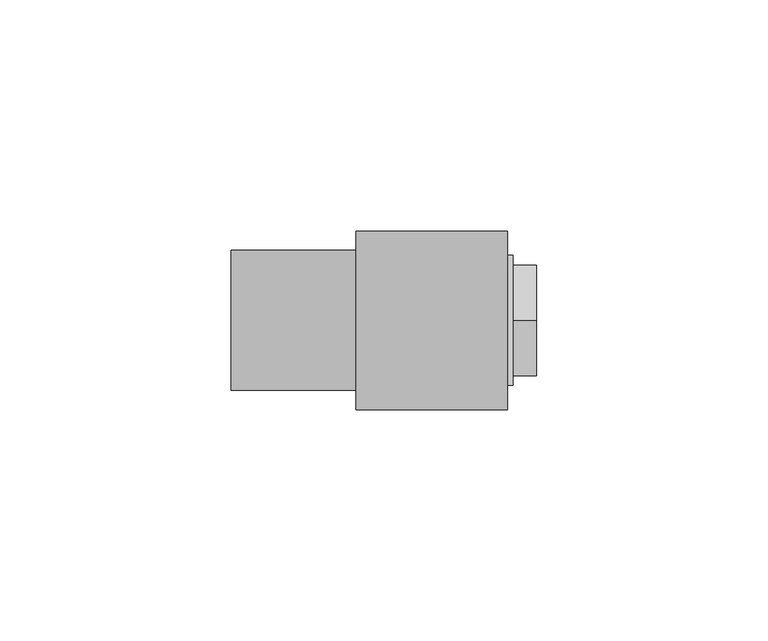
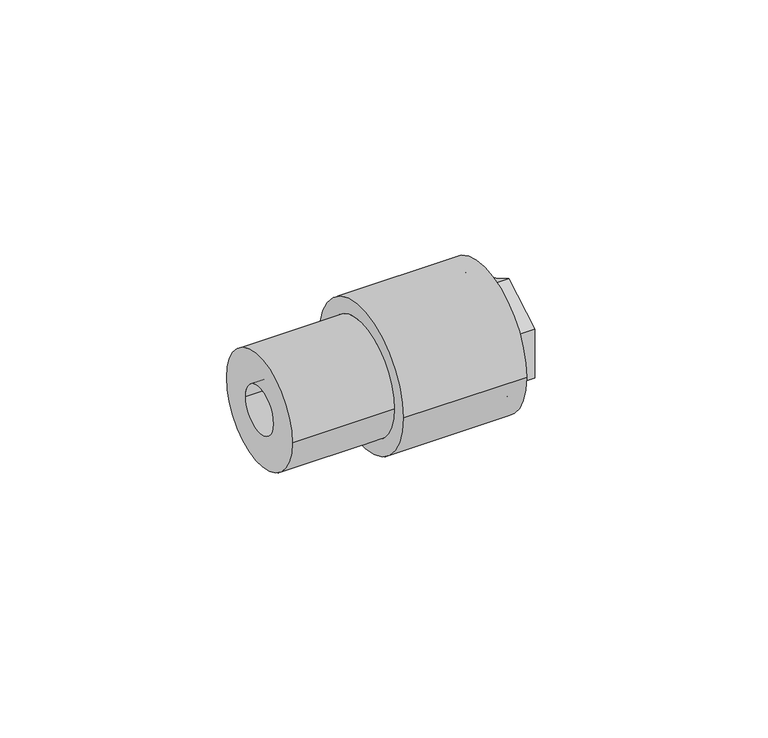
"""IFC4 building model written with IfcOpenShell, lengths in millimetres: pipe fitting geometry, Aquatherm - Fusion Outlet Transition Female : POTABLE BRASS - HEX."""

from ifc_helpers import new_model, si_unit, frame, origin, place, context, project, spatial, polyline, circle_curve, source, transform, mapped, element, save
from ifc_brep_helpers import plane_surface, cylinder_surface, revolved_surface, advanced_brep


def pipe_fitting_e7956df5(model_context):
    return source(origin(), model_context, "Body", "AdvancedBrep", [
        advanced_brep(
        [(26.416, 9.525, 0.0), (26.416, -9.525, 0.0), (36.5363125, -9.525, 0.0), (36.5363125, 9.525, 0.0), (26.416, 10.31875, 0.0), (26.416, -10.31875, 0.0), (23.241, 10.31875, 0.0), (23.241, -10.31875, 0.0), (23.241, 6.35, 0.0), (23.241, -6.35, 0.0), (20.066, 6.35, 0.0), (20.066, -6.35, 0.0), (20.066, 15.113, 0.0), (20.066, -15.113, 0.0), (32.766, 15.113, 0.0), (32.766, -15.113, 0.0), (39.116, 10.31875, 0.0), (39.116, -10.31875, 0.0), (39.116, -11.938, 0.0), (39.116, -11.938, -6.8924075), (39.116, 0.0, -13.784815), (39.116, 11.938, -6.8924075), (39.116, 11.938, 0.0), (39.116, 11.938, 6.8924075), (39.116, 0.0, 13.784815), (39.116, -11.938, 6.8924075), (32.766, 14.097, 0.0), (32.766, -14.097, 0.0), (33.956625, 14.097, 0.0), (33.956625, -14.097, 0.0), (33.956625, 0.0, -13.784815), (33.956625, -11.938, -6.8924075), (33.956625, -11.938, 6.8924075), (33.956625, 0.0, 13.784815), (33.956625, 11.938, 6.8924075), (33.956625, 11.938, -6.8924075)],
        [
            (0, 1, circle_curve(frame((26.416, 0.0, 0.0), z_axis=(-1.0, 0.0, 0.0), x_axis=(0.0, -1.0, 0.0)), 9.525)),
            (1, 2),
            (2, 3, circle_curve(frame((36.5363125, 0.0, 0.0), z_axis=(1.0, 0.0, 0.0), x_axis=(0.0, -1.0, 0.0)), 9.525)),
            (3, 0),
            (1, 0, circle_curve(frame((26.416, 0.0, 0.0), z_axis=(-1.0, 0.0, 0.0), x_axis=(0.0, -1.0, 0.0)), 9.525)),
            (3, 2, circle_curve(frame((36.5363125, 0.0, 0.0), z_axis=(1.0, 0.0, 0.0), x_axis=(0.0, -1.0, 0.0)), 9.525)),
            (0, 4),
            (4, 5, circle_curve(frame((26.416, 0.0, 0.0), z_axis=(-1.0, 0.0, 0.0), x_axis=(0.0, -1.0, 0.0)), 10.31875)),
            (5, 1),
            (5, 4, circle_curve(frame((26.416, 0.0, 0.0), z_axis=(-1.0, 0.0, 0.0), x_axis=(0.0, -1.0, 0.0)), 10.31875)),
            (4, 6),
            (6, 7, circle_curve(frame((23.241, 0.0, 0.0), z_axis=(-1.0, 0.0, 0.0), x_axis=(0.0, -1.0, 0.0)), 10.31875)),
            (7, 5),
            (7, 6, circle_curve(frame((23.241, 0.0, 0.0), z_axis=(-1.0, 0.0, 0.0), x_axis=(0.0, -1.0, 0.0)), 10.31875)),
            (6, 8),
            (8, 9, circle_curve(frame((23.241, 0.0, 0.0), z_axis=(-1.0, 0.0, 0.0), x_axis=(0.0, -1.0, 0.0)), 6.35)),
            (9, 7),
            (9, 8, circle_curve(frame((23.241, 0.0, 0.0), z_axis=(-1.0, 0.0, 0.0), x_axis=(0.0, -1.0, 0.0)), 6.35)),
            (8, 10),
            (10, 11, circle_curve(frame((20.066, 0.0, 0.0), z_axis=(-1.0, 0.0, 0.0), x_axis=(0.0, -1.0, 0.0)), 6.35)),
            (11, 9),
            (11, 10, circle_curve(frame((20.066, 0.0, 0.0), z_axis=(-1.0, 0.0, 0.0), x_axis=(0.0, -1.0, 0.0)), 6.35)),
            (10, 12),
            (12, 13, circle_curve(frame((20.066, 0.0, 0.0), z_axis=(-1.0, 0.0, 0.0), x_axis=(0.0, -1.0, 0.0)), 15.113)),
            (13, 11),
            (13, 12, circle_curve(frame((20.066, 0.0, 0.0), z_axis=(-1.0, 0.0, 0.0), x_axis=(0.0, -1.0, 0.0)), 15.113)),
            (12, 14),
            (14, 15, circle_curve(frame((32.766, 0.0, 0.0), z_axis=(-1.0, 0.0, 0.0), x_axis=(0.0, -1.0, 0.0)), 15.113)),
            (15, 13),
            (15, 14, circle_curve(frame((32.766, 0.0, 0.0), z_axis=(-1.0, 0.0, 0.0), x_axis=(0.0, -1.0, 0.0)), 15.113)),
            (16, 17, circle_curve(frame((39.116, 0.0, 0.0), z_axis=(-1.0, 0.0, 0.0), x_axis=(0.0, -1.0, 0.0)), 10.31875)),
            (17, 18),
            (18, 19),
            (19, 20),
            (20, 21),
            (21, 22),
            (22, 16),
            (17, 16, circle_curve(frame((39.116, 0.0, 0.0), z_axis=(-1.0, 0.0, 0.0), x_axis=(0.0, -1.0, 0.0)), 10.31875)),
            (22, 23),
            (23, 24),
            (24, 25),
            (25, 18),
            (2, 17),
            (16, 3),
            (14, 26),
            (26, 27, circle_curve(frame((32.766, 0.0, 0.0), z_axis=(-1.0, 0.0, 0.0), x_axis=(0.0, -1.0, 0.0)), 14.097)),
            (27, 15),
            (27, 26, circle_curve(frame((32.766, 0.0, 0.0), z_axis=(-1.0, 0.0, 0.0), x_axis=(0.0, -1.0, 0.0)), 14.097)),
            (26, 28),
            (28, 29, circle_curve(frame((33.956625, 0.0, 0.0), z_axis=(-1.0, 0.0, 0.0), x_axis=(0.0, -1.0, 0.0)), 14.097)),
            (29, 27),
            (29, 28, circle_curve(frame((33.956625, 0.0, 0.0), z_axis=(-1.0, 0.0, 0.0), x_axis=(0.0, -1.0, 0.0)), 14.097)),
            (30, 31),
            (31, 32),
            (32, 33),
            (33, 34),
            (34, 35),
            (35, 30),
            (35, 21),
            (20, 30),
            (34, 23),
            (33, 24),
            (32, 25),
            (31, 19),
        ],
        [
            revolved_surface(polyline([(36.5363125, -9.525, 0.0), (26.416, -9.525, 0.0)]), (40.9492251, 0.0, 0.0), (1.0, 0.0, 0.0)),
            plane_surface(frame((26.416, 0.0, 0.0), z_axis=(-1.0, 0.0, 0.0), x_axis=(0.0, -1.0, 0.0))),
            revolved_surface(polyline([(26.416, -10.31875, 0.0), (23.241, -10.31875, 0.0)]), (40.9492251, 0.0, 0.0), (1.0, 0.0, 0.0)),
            plane_surface(frame((23.241, 0.0, 0.0), z_axis=(1.0, 0.0, 0.0), x_axis=(0.0, -1.0, 0.0))),
            revolved_surface(polyline([(23.241, -6.35, 0.0), (20.066, -6.35, 0.0)]), (40.9492251, 0.0, 0.0), (1.0, 0.0, 0.0)),
            plane_surface(frame((20.066, 0.0, 0.0), z_axis=(-1.0, 0.0, 0.0), x_axis=(0.0, -1.0, 0.0))),
            cylinder_surface(frame((40.9492251, 0.0, 0.0), z_axis=(1.0, 0.0, 0.0), x_axis=(0.0, -1.0, 0.0)), 15.113),
            plane_surface(frame((39.116, 0.0, 0.0), z_axis=(1.0, 0.0, 0.0), x_axis=(0.0, -1.0, 0.0))),
            revolved_surface(polyline([(39.116, -10.31875, 0.0), (36.5363125, -9.525, 0.0)]), (40.9492251, 0.0, 0.0), (1.0, 0.0, 0.0)),
            plane_surface(frame((32.766, 0.0, 0.0), z_axis=(1.0, 0.0, 0.0), x_axis=(0.0, -1.0, 0.0))),
            cylinder_surface(frame((40.9492251, 0.0, 0.0), z_axis=(1.0, 0.0, 0.0), x_axis=(0.0, -1.0, 0.0)), 14.097),
            plane_surface(frame((33.956625, 11.938, -6.8924075), z_axis=(1.0, 0.0, 0.0), x_axis=(0.0, 0.8660254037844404, 0.49999999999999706))),
            plane_surface(frame((33.956625, 0.0, -13.784815), z_axis=(0.0, 0.49999999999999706, -0.8660254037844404), x_axis=(1.0, 0.0, 0.0))),
            plane_surface(frame((33.956625, 11.938, -6.8924075), z_axis=(0.0, 1.0, 0.0), x_axis=(1.0, 0.0, 0.0))),
            plane_surface(frame((33.956625, 11.938, 6.8924075), z_axis=(0.0, 0.5000000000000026, 0.8660254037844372), x_axis=(1.0, 0.0, 0.0))),
            plane_surface(frame((33.956625, 0.0, 13.784815), z_axis=(0.0, -0.4999999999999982, 0.8660254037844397), x_axis=(1.0, 0.0, 0.0))),
            plane_surface(frame((33.956625, -11.938, 6.8924075), z_axis=(0.0, -1.0, 0.0), x_axis=(1.0, 0.0, 0.0))),
            plane_surface(frame((33.956625, -11.938, -6.8924075), z_axis=(0.0, -0.5000000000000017, -0.8660254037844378), x_axis=(1.0, 0.0, 0.0))),
        ],
        [
            (0, [[1, 2, 3, 4]]),
            (0, [[-2, 5, -4, 6]]),
            (1, [[-1, 7, 8, 9]]),
            (1, [[-5, -9, 10, -7]]),
            (2, [[-8, 11, 12, 13]]),
            (2, [[-10, -13, 14, -11]]),
            (3, [[-12, 15, 16, 17]]),
            (3, [[-14, -17, 18, -15]]),
            (4, [[-16, 19, 20, 21]]),
            (4, [[-18, -21, 22, -19]]),
            (5, [[-20, 23, 24, 25]]),
            (5, [[-22, -25, 26, -23]]),
            (6, [[-24, 27, 28, 29]]),
            (6, [[-26, -29, 30, -27]]),
            (7, [[31, 32, 33, 34, 35, 36, 37]]),
            (7, [[38, -37, 39, 40, 41, 42, -32]]),
            (8, [[-3, 43, -31, 44]]),
            (8, [[-6, -44, -38, -43]]),
            (9, [[-28, 45, 46, 47]]),
            (9, [[-30, -47, 48, -45]]),
            (10, [[-46, 49, 50, 51]]),
            (10, [[-48, -51, 52, -49]]),
            (11, [[-50, -52], [53, 54, 55, 56, 57, 58]]),
            (12, [[-58, 59, -35, 60]]),
            (13, [[-57, 61, -39, -36, -59]]),
            (14, [[-56, 62, -40, -61]]),
            (15, [[-55, 63, -41, -62]]),
            (16, [[-54, 64, -33, -42, -63]]),
            (17, [[-53, -60, -34, -64]]),
        ],
    ),
        advanced_brep(
        [(-27.0475676, 15.113, 0.0), (-27.0475676, -15.113, 0.0), (-27.0475676, 6.35, 0.0), (-27.0475676, -6.35, 0.0), (20.066, 15.113, 0.0), (20.066, -15.113, 0.0), (20.066, 6.35, 0.0), (20.066, -6.35, 0.0), (0.0, 15.113, 0.0), (0.0, -15.113, 0.0), (32.766, 19.304, 0.0), (32.766, -19.304, 0.0), (32.766, 15.113, 0.0), (32.766, -15.113, 0.0), (0.0, 19.304, 0.0), (0.0, -19.304, 0.0)],
        [
            (0, 1, circle_curve(frame((-27.0475676, 0.0, 0.0), z_axis=(-1.0, 0.0, 0.0), x_axis=(0.0, -1.0, 0.0)), 15.113)),
            (1, 0, circle_curve(frame((-27.0475676, 0.0, 0.0), z_axis=(-1.0, 0.0, 0.0), x_axis=(0.0, -1.0, 0.0)), 15.113)),
            (2, 3, circle_curve(frame((-27.0475676, 0.0, 0.0), z_axis=(1.0, 0.0, 0.0), x_axis=(0.0, -1.0, 0.0)), 6.35)),
            (3, 2, circle_curve(frame((-27.0475676, 0.0, 0.0), z_axis=(1.0, 0.0, 0.0), x_axis=(0.0, -1.0, 0.0)), 6.35)),
            (4, 5, circle_curve(frame((20.066, 0.0, 0.0), z_axis=(1.0, 0.0, 0.0), x_axis=(0.0, -1.0, 0.0)), 15.113)),
            (5, 4, circle_curve(frame((20.066, 0.0, 0.0), z_axis=(1.0, 0.0, 0.0), x_axis=(0.0, -1.0, 0.0)), 15.113)),
            (6, 7, circle_curve(frame((20.066, 0.0, 0.0), z_axis=(-1.0, 0.0, 0.0), x_axis=(0.0, -1.0, 0.0)), 6.35)),
            (7, 6, circle_curve(frame((20.066, 0.0, 0.0), z_axis=(-1.0, 0.0, 0.0), x_axis=(0.0, -1.0, 0.0)), 6.35)),
            (2, 6),
            (7, 3),
            (0, 8),
            (8, 9, circle_curve(frame((0.0, 0.0, 0.0), z_axis=(-1.0, 0.0, 0.0), x_axis=(0.0, -1.0, 0.0)), 15.113)),
            (9, 1),
            (9, 8, circle_curve(frame((0.0, 0.0, 0.0), z_axis=(-1.0, 0.0, 0.0), x_axis=(0.0, -1.0, 0.0)), 15.113)),
            (10, 11, circle_curve(frame((32.766, 0.0, 0.0), z_axis=(1.0, 0.0, 0.0), x_axis=(0.0, -1.0, 0.0)), 19.304)),
            (11, 10, circle_curve(frame((32.766, 0.0, 0.0), z_axis=(1.0, 0.0, 0.0), x_axis=(0.0, -1.0, 0.0)), 19.304)),
            (12, 13, circle_curve(frame((32.766, 0.0, 0.0), z_axis=(-1.0, 0.0, 0.0), x_axis=(0.0, -1.0, 0.0)), 15.113)),
            (13, 12, circle_curve(frame((32.766, 0.0, 0.0), z_axis=(-1.0, 0.0, 0.0), x_axis=(0.0, -1.0, 0.0)), 15.113)),
            (14, 15, circle_curve(frame((0.0, 0.0, 0.0), z_axis=(-1.0, 0.0, 0.0), x_axis=(0.0, -1.0, 0.0)), 19.304)),
            (15, 14, circle_curve(frame((0.0, 0.0, 0.0), z_axis=(-1.0, 0.0, 0.0), x_axis=(0.0, -1.0, 0.0)), 19.304)),
            (13, 5),
            (4, 12),
            (11, 15),
            (14, 10),
        ],
        [
            plane_surface(frame((-27.0475676, -6.35, 0.0), z_axis=(-1.0, 0.0, 0.0), x_axis=(0.0, 0.0, -1.0))),
            plane_surface(frame((20.066, -6.35, 0.0), z_axis=(1.0, 0.0, 0.0), x_axis=(0.0, 0.0, 1.0))),
            revolved_surface(polyline([(20.066, -6.35, 0.0), (-27.047567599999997, -6.35, 0.0)]), (20.066, 0.0, 0.0), (1.0, 0.0, 0.0)),
            cylinder_surface(frame((0.0, 0.0, 0.0), z_axis=(-1.0, 0.0, 0.0), x_axis=(0.0, -1.0, 0.0)), 15.113),
            plane_surface(frame((32.766, -15.113, 0.0), z_axis=(1.0, 0.0, 0.0), x_axis=(0.0, 0.0, 1.0))),
            plane_surface(frame((0.0, -15.113, 0.0), z_axis=(-1.0, 0.0, 0.0), x_axis=(0.0, 0.0, -1.0))),
            revolved_surface(polyline([(32.766, -15.113, 0.0), (20.066, -15.113, 0.0)]), (32.766, 0.0, 0.0), (1.0, 0.0, 0.0)),
            cylinder_surface(frame((0.0, 0.0, 0.0), z_axis=(-1.0, 0.0, 0.0), x_axis=(0.0, -1.0, 0.0)), 19.304),
        ],
        [
            (0, [[1, 2], [3, 4]]),
            (1, [[5, 6], [7, 8]]),
            (2, [[-3, 9, -8, 10]]),
            (2, [[-4, -10, -7, -9]]),
            (3, [[-1, 11, 12, 13]]),
            (3, [[-2, -13, 14, -11]]),
            (4, [[15, 16], [17, 18]]),
            (5, [[19, 20], [-12, -14]]),
            (6, [[-18, 21, -5, 22]]),
            (6, [[-17, -22, -6, -21]]),
            (7, [[-16, 23, -19, 24]]),
            (7, [[-15, -24, -20, -23]]),
        ],
    ),
    ])


if __name__ == "__main__":
    model = new_model("IFC4")
    model_context = context("Model", 3, world=origin())
    ifc_project = project(units=[si_unit("LENGTHUNIT", "METRE", prefix="MILLI")], contexts=[model_context])
    site = spatial("IfcSite", under=ifc_project)
    building = spatial("IfcBuilding", under=site)
    placement = place(None, origin())
    pipe_fitting_shape = pipe_fitting_e7956df5(model_context)
    element("IfcPipeFitting", 1, ObjectType="Aquatherm - Fusion Outlet Transition Female : POTABLE BRASS - HEX", at=placement, inside=building, context=model_context, shape_type="MappedRepresentation", body=[
        mapped(pipe_fitting_shape, transform((0.0, 0.0, 0.0), x_axis=(1.0, 0.0, 0.0), y_axis=(0.0, 1.0, 0.0), z_axis=(0.0, 0.0, 1.0))),
    ])
    save(model, "model.ifc")
